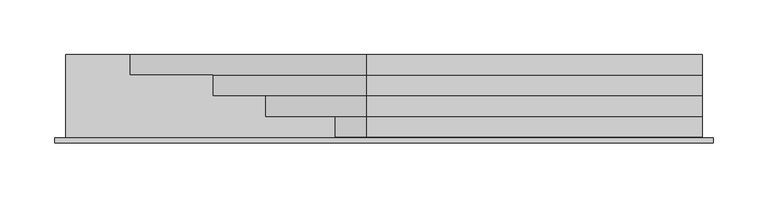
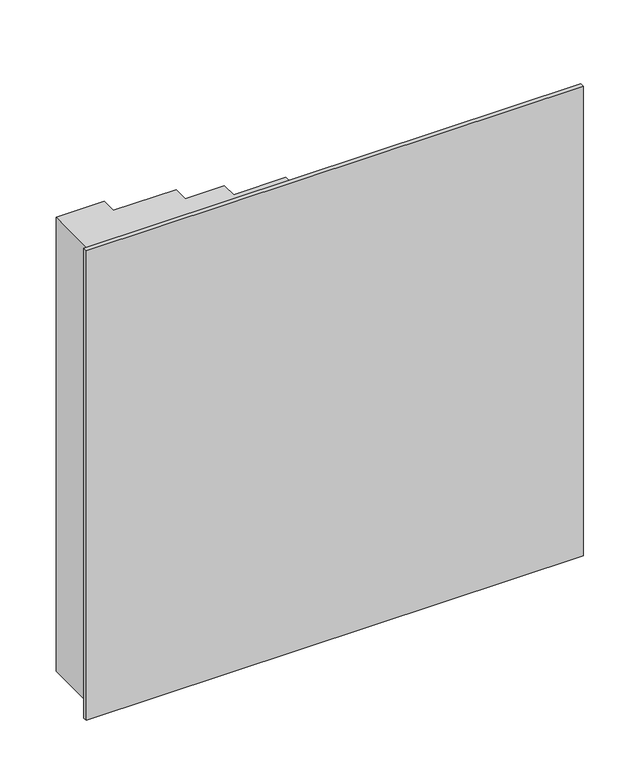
"""IFC4 building model written with IfcOpenShell, lengths in millimetres: plate geometry, Construction_Ceilings_Qwel-Tiles_Terra-Molded-Acoustic-Ceiling-Tiles : Terra (Charcoal Heather)."""

from ifc_helpers import new_model, si_unit, frame, origin, place, context, project, spatial, polyline, circle_curve, outline, extrude, source, transform, mapped, element, save
from ifc_brep_helpers import plane_surface, revolved_surface, advanced_brep


def plate_104ba011(model_context):
    return source(origin(), model_context, "Body", "SolidModel", [
        advanced_brep(
        [(-290.8101563, 4.9609375, 13.9898438), (-290.8101563, 81.1082644, 13.9898438), (290.8101562, 81.1082644, 13.9898438), (290.8101562, 4.9609375, 13.9898438), (-290.8101562, 4.9609375, 595.6101563), (290.8101562, 4.9609375, 595.6101563), (290.8101562, 5.3578125, 595.6101563), (-45.2139594, 5.3578125, 595.6101563), (-45.2139594, 24.0011217, 595.6101563), (-108.7057833, 24.0011217, 595.6101563), (-108.7057833, 43.0511081, 595.6101563), (-156.3229695, 43.0511081, 595.6101563), (-156.3229695, 62.1010648, 595.6101563), (-232.5082728, 62.1010648, 595.6101563), (-232.5082728, 81.1082644, 595.6101563), (-290.8101562, 81.1082644, 595.6101563), (-232.5082728, 81.1082644, 288.5308572), (-16.2765586, 81.1082644, 72.2991429), (290.8101562, 81.1082644, 72.2991429), (-232.5082728, 62.1010648, 288.5308572), (-156.3229695, 62.1010648, 288.5308572), (-16.2765586, 62.1010648, 148.4844463), (290.8101563, 62.1010648, 148.4844463), (290.8101562, 62.1010648, 72.2991429), (-16.2765586, 62.1010648, 72.2991429), (-156.3229695, 43.0511081, 288.5308572), (-108.7057833, 43.0511081, 288.5308572), (-16.2765586, 43.0511081, 196.1016324), (290.8101563, 43.0511081, 196.1016324), (290.8101562, 43.0511081, 148.4844463), (-16.2765586, 43.0511081, 148.4844463), (-108.7057833, 24.0011217, 288.5308572), (-16.2765586, 24.0011217, 196.1016324), (290.8101563, 24.0011217, 196.1016324), (-45.2139594, 24.0011217, 288.5308572), (-16.2765586, 24.0011217, 259.5934564), (290.8101563, 24.0011217, 259.5934564), (-45.2139594, 5.3578125, 288.5308572), (-16.2765586, 5.3578125, 259.5934564), (290.8101563, 5.3578125, 259.5934564)],
        [
            (0, 1),
            (1, 2),
            (2, 3),
            (3, 0),
            (4, 5),
            (5, 6),
            (6, 7),
            (7, 8),
            (8, 9),
            (9, 10),
            (10, 11),
            (11, 12),
            (12, 13),
            (13, 14),
            (14, 15),
            (15, 4),
            (3, 5),
            (4, 0),
            (1, 15),
            (14, 16),
            (16, 17, circle_curve(frame((-16.2765586, 81.1082644, 288.5308572), z_axis=(0.0, -1.0, 0.0), x_axis=(-1.0, 0.0, 0.0)), 216.2317143)),
            (17, 18),
            (18, 2),
            (13, 19),
            (19, 16),
            (12, 20),
            (20, 21, circle_curve(frame((-16.2765586, 62.1010648, 288.5308572), z_axis=(0.0, -1.0, 0.0), x_axis=(-1.0, 0.0, 0.0)), 140.0464109)),
            (21, 22),
            (22, 23),
            (23, 24),
            (24, 19, circle_curve(frame((-16.2765586, 62.1010648, 288.5308572), z_axis=(0.0, 1.0, 0.0), x_axis=(-1.0, 0.0, 0.0)), 216.2317143)),
            (11, 25),
            (25, 20),
            (10, 26),
            (26, 27, circle_curve(frame((-16.2765586, 43.0511081, 288.5308572), z_axis=(0.0, -1.0, 0.0), x_axis=(-1.0, 0.0, 0.0)), 92.4292248)),
            (27, 28),
            (28, 29),
            (29, 30),
            (30, 25, circle_curve(frame((-16.2765586, 43.0511081, 288.5308572), z_axis=(0.0, 1.0, 0.0), x_axis=(-1.0, 0.0, 0.0)), 140.0464109)),
            (9, 31),
            (31, 26),
            (24, 17),
            (30, 21),
            (31, 32, circle_curve(frame((-16.2765586, 24.0011217, 288.5308572), z_axis=(0.0, -1.0, 0.0), x_axis=(-1.0, 0.0, 0.0)), 92.4292248)),
            (32, 27),
            (23, 18),
            (29, 22),
            (32, 33),
            (33, 28),
            (8, 34),
            (34, 35, circle_curve(frame((-16.2765586, 24.0011217, 288.5308572), z_axis=(0.0, -1.0, 0.0), x_axis=(-1.0, 0.0, 0.0)), 28.9374008)),
            (35, 36),
            (36, 33),
            (7, 37),
            (37, 34),
            (37, 38, circle_curve(frame((-16.2765586, 5.3578125, 288.5308572), z_axis=(0.0, -1.0, 0.0), x_axis=(-1.0, 0.0, 0.0)), 28.9374008)),
            (38, 35),
            (38, 39),
            (39, 36),
            (39, 6),
        ],
        [
            plane_surface(frame((-290.8101563, 4.9609375, 13.9898438), z_axis=(0.0, 0.0, -1.0), x_axis=(0.0, 1.0, 0.0))),
            plane_surface(frame((-290.8101562, 4.9609375, 595.6101563), z_axis=(0.0, 0.0, 1.0), x_axis=(0.0, -1.0, 0.0))),
            plane_surface(frame((290.8101562, 4.9609375, 13.9898438), z_axis=(0.0, -1.0, 0.0), x_axis=(0.0, 0.0, 1.0))),
            plane_surface(frame((-290.8101563, 81.1082644, 13.9898438), z_axis=(0.0, 1.0, 0.0), x_axis=(0.0, 0.0, 1.0))),
            plane_surface(frame((-232.5082728, 81.1082644, 595.6101563), z_axis=(1.0, 0.0, 0.0), x_axis=(0.0, 0.0, -1.0))),
            plane_surface(frame((-232.5082728, 62.1010648, 595.6101563), z_axis=(0.0, 1.0, 0.0), x_axis=(0.0, 0.0, -1.0))),
            plane_surface(frame((-156.3229695, 62.1010648, 595.6101563), z_axis=(1.0, 0.0, 0.0), x_axis=(0.0, 0.0, -1.0))),
            plane_surface(frame((-156.3229695, 43.0511081, 595.6101563), z_axis=(0.0, 1.0, 0.0), x_axis=(0.0, 0.0, -1.0))),
            plane_surface(frame((-108.7057833, 43.0511081, 595.6101563), z_axis=(1.0, 0.0, 0.0), x_axis=(0.0, 0.0, -1.0))),
            revolved_surface(polyline([(-232.5082729, 62.1010648, 288.5308572), (-232.5082729, 81.1082644, 288.5308572)]), (-16.2765586, 4.9609375, 288.5308572), (0.0, -1.0, 0.0)),
            revolved_surface(polyline([(-156.3229695, 43.0511081, 288.5308572), (-156.3229695, 62.1010648, 288.5308572)]), (-16.2765586, 4.9609375, 288.5308572), (0.0, -1.0, 0.0)),
            revolved_surface(polyline([(-108.7057834, 24.0011217, 288.5308572), (-108.7057834, 43.0511081, 288.5308572)]), (-16.2765586, 4.9609375, 288.5308572), (0.0, -1.0, 0.0)),
            plane_surface(frame((-16.2765586, 81.1082644, 72.2991429), z_axis=(0.0, 0.0, 1.0), x_axis=(1.0, 0.0, 0.0))),
            plane_surface(frame((-16.2765586, 62.1010648, 148.4844463), z_axis=(0.0, 0.0, 1.0), x_axis=(1.0, 0.0, 0.0))),
            plane_surface(frame((-16.2765586, 43.0511081, 196.1016324), z_axis=(0.0, 0.0, 1.0), x_axis=(1.0, 0.0, 0.0))),
            plane_surface(frame((-108.7057833, 24.0011217, 595.6101563), z_axis=(0.0, 1.0, 0.0), x_axis=(0.0, 0.0, -1.0))),
            plane_surface(frame((-45.2139594, 24.0011217, 595.6101563), z_axis=(1.0, 0.0, 0.0), x_axis=(0.0, 0.0, -1.0))),
            revolved_surface(polyline([(-45.2139594, 5.3578125, 288.5308572), (-45.2139594, 24.0011217, 288.5308572)]), (-16.2765586, 4.9609375, 288.5308572), (0.0, -1.0, 0.0)),
            plane_surface(frame((-16.2765586, 24.0011217, 259.5934564), z_axis=(0.0, 0.0, 1.0), x_axis=(1.0, 0.0, 0.0))),
            plane_surface(frame((-290.8101563, 4.9609375, 13.9898438), z_axis=(-1.0, 0.0, 0.0), x_axis=(0.0, 0.0, 1.0))),
            plane_surface(frame((290.8101562, 81.1082644, 13.9898438), z_axis=(1.0, 0.0, 0.0), x_axis=(0.0, 0.0, 1.0))),
            plane_surface(frame((-45.2139594, 5.3578125, 595.6101563), z_axis=(0.0, 1.0, 0.0), x_axis=(0.0, 0.0, -1.0))),
        ],
        [
            (0, [[1, 2, 3, 4]]),
            (1, [[5, 6, 7, 8, 9, 10, 11, 12, 13, 14, 15, 16]]),
            (2, [[-4, 17, -5, 18]]),
            (3, [[-2, 19, -15, 20, 21, 22, 23]]),
            (4, [[24, 25, -20, -14]]),
            (5, [[-24, -13, 26, 27, 28, 29, 30, 31]]),
            (6, [[-26, -12, 32, 33]]),
            (7, [[-32, -11, 34, 35, 36, 37, 38, 39]]),
            (8, [[-34, -10, 40, 41]]),
            (9, [[-25, -31, 42, -21]]),
            (10, [[-27, -33, -39, 43]]),
            (11, [[-35, -41, 44, 45]]),
            (12, [[-30, 46, -22, -42]]),
            (13, [[-28, -43, -38, 47]]),
            (14, [[-36, -45, 48, 49]]),
            (15, [[-40, -9, 50, 51, 52, 53, -48, -44]]),
            (16, [[-50, -8, 54, 55]]),
            (17, [[-51, -55, 56, 57]]),
            (18, [[-52, -57, 58, 59]]),
            (19, [[-1, -18, -16, -19]]),
            (20, [[-3, -23, -46, -29, -47, -37, -49, -53, -59, 60, -6, -17]]),
            (21, [[-54, -7, -60, -58, -56]]),
        ],
    ),
        extrude(outline(polyline([(300.99, 0.0), (-300.99, 0.0), (-300.99, 4.9609375), (300.99, 4.9609375), (300.99, 0.0)])), frame((0.0, 0.0, 3.81), z_axis=(0.0, 0.0, 1.0), x_axis=(1.0, 0.0, 0.0)), (0.0, 0.0, 1.0), 601.98),
    ])


if __name__ == "__main__":
    model = new_model("IFC4")
    model_context = context("Model", 3, world=origin())
    ifc_project = project(units=[si_unit("LENGTHUNIT", "METRE", prefix="MILLI")], contexts=[model_context])
    site = spatial("IfcSite", under=ifc_project)
    building = spatial("IfcBuilding", under=site)
    placement = place(None, origin())
    plate_shape = plate_104ba011(model_context)
    element("IfcPlate", 1, ObjectType="Construction_Ceilings_Qwel-Tiles_Terra-Molded-Acoustic-Ceiling-Tiles : Terra (Charcoal Heather)", at=placement, inside=building, context=model_context, shape_type="MappedRepresentation", body=[
        mapped(plate_shape, transform((0.0, 0.0, 0.0), x_axis=(1.0, 0.0, 0.0), y_axis=(0.0, 1.0, 0.0), z_axis=(0.0, 0.0, 1.0))),
    ])
    save(model, "model.ifc")
